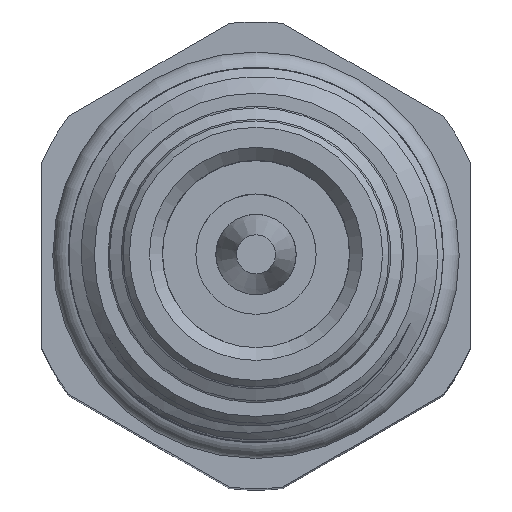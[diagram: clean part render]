
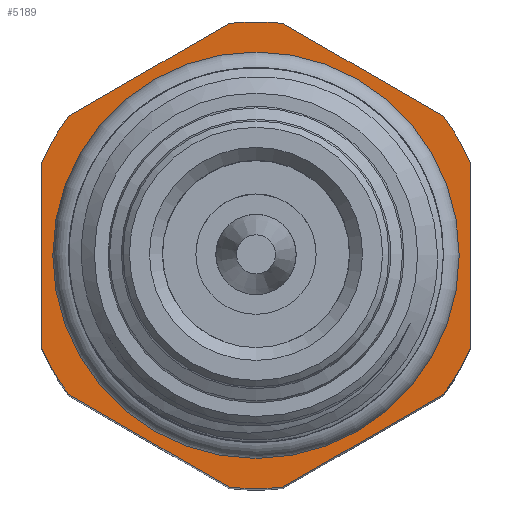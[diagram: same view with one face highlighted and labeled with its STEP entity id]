
A CAD part, top view. The second image highlights one B-rep face of the part: STEP entity #5189.
In plain terms, the highlighted planar face has unit normal (0, 0, 1).
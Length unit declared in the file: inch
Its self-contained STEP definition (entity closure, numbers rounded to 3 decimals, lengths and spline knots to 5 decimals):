
#51=FACE_BOUND('',#1195,.T.);
#242=PLANE('',#5555);
#544=CIRCLE('',#5473,0.545);
#546=CIRCLE('',#5477,0.545);
#551=CIRCLE('',#5487,0.426);
#561=CIRCLE('',#5501,0.545);
#563=CIRCLE('',#5504,0.545);
#565=CIRCLE('',#5508,0.545);
#567=CIRCLE('',#5512,0.545);
#902=FACE_OUTER_BOUND('',#1194,.T.);
#1194=EDGE_LOOP('',(#4039,#4040,#4041,#4042,#4043,#4044,#4045,#4046,#4047,
#4048,#4049,#4050));
#1195=EDGE_LOOP('',(#4051));
#1653=LINE('',#15206,#1893);
#1657=LINE('',#15225,#1897);
#1660=LINE('',#15243,#1900);
#1666=LINE('',#15302,#1906);
#1669=LINE('',#15319,#1909);
#1672=LINE('',#15334,#1912);
#1893=VECTOR('',#6172,0.3937);
#1897=VECTOR('',#6184,0.3937);
#1900=VECTOR('',#6195,0.3937);
#1906=VECTOR('',#6255,0.3937);
#1909=VECTOR('',#6266,0.3937);
#1912=VECTOR('',#6277,0.3937);
#2259=VERTEX_POINT('',#15203);
#2260=VERTEX_POINT('',#15205);
#2263=VERTEX_POINT('',#15215);
#2265=VERTEX_POINT('',#15223);
#2267=VERTEX_POINT('',#15232);
#2269=VERTEX_POINT('',#15240);
#2270=VERTEX_POINT('',#15242);
#2276=VERTEX_POINT('',#15262);
#2285=VERTEX_POINT('',#15290);
#2287=VERTEX_POINT('',#15301);
#2289=VERTEX_POINT('',#15307);
#2291=VERTEX_POINT('',#15318);
#2293=VERTEX_POINT('',#15324);
#2866=EDGE_CURVE('',#2259,#2260,#1653,.T.);
#2871=EDGE_CURVE('',#2263,#2259,#544,.T.);
#2874=EDGE_CURVE('',#2265,#2263,#1657,.T.);
#2878=EDGE_CURVE('',#2267,#2265,#546,.T.);
#2881=EDGE_CURVE('',#2269,#2270,#1660,.T.);
#2889=EDGE_CURVE('',#2276,#2276,#551,.T.);
#2901=EDGE_CURVE('',#2260,#2269,#561,.T.);
#2903=EDGE_CURVE('',#2270,#2285,#563,.T.);
#2907=EDGE_CURVE('',#2285,#2287,#1666,.T.);
#2910=EDGE_CURVE('',#2287,#2289,#565,.T.);
#2914=EDGE_CURVE('',#2289,#2291,#1669,.T.);
#2917=EDGE_CURVE('',#2291,#2293,#567,.T.);
#2921=EDGE_CURVE('',#2293,#2267,#1672,.T.);
#4039=ORIENTED_EDGE('',*,*,#2910,.F.);
#4040=ORIENTED_EDGE('',*,*,#2907,.F.);
#4041=ORIENTED_EDGE('',*,*,#2903,.F.);
#4042=ORIENTED_EDGE('',*,*,#2881,.F.);
#4043=ORIENTED_EDGE('',*,*,#2901,.F.);
#4044=ORIENTED_EDGE('',*,*,#2866,.F.);
#4045=ORIENTED_EDGE('',*,*,#2871,.F.);
#4046=ORIENTED_EDGE('',*,*,#2874,.F.);
#4047=ORIENTED_EDGE('',*,*,#2878,.F.);
#4048=ORIENTED_EDGE('',*,*,#2921,.F.);
#4049=ORIENTED_EDGE('',*,*,#2917,.F.);
#4050=ORIENTED_EDGE('',*,*,#2914,.F.);
#4051=ORIENTED_EDGE('',*,*,#2889,.F.);
#5189=ADVANCED_FACE('',(#902,#51),#242,.T.);
#5473=AXIS2_PLACEMENT_3D('',#15217,#6179,#6180);
#5477=AXIS2_PLACEMENT_3D('',#15234,#6190,#6191);
#5487=AXIS2_PLACEMENT_3D('',#15263,#6214,#6215);
#5501=AXIS2_PLACEMENT_3D('',#15286,#6244,#6245);
#5504=AXIS2_PLACEMENT_3D('',#15291,#6250,#6251);
#5508=AXIS2_PLACEMENT_3D('',#15308,#6261,#6262);
#5512=AXIS2_PLACEMENT_3D('',#15325,#6272,#6273);
#5555=AXIS2_PLACEMENT_3D('',#15444,#6384,#6385);
#6172=DIRECTION('',(0.866,-0.5,0.));
#6179=DIRECTION('center_axis',(0.,0.,
-1.));
#6180=DIRECTION('ref_axis',(1.,0.,0.));
#6184=DIRECTION('',(0.866,0.5,0.));
#6190=DIRECTION('center_axis',(0.,0.,
-1.));
#6191=DIRECTION('ref_axis',(1.,0.,0.));
#6195=DIRECTION('',(0.,-1.,0.));
#6214=DIRECTION('center_axis',(0.,0.,
1.));
#6215=DIRECTION('ref_axis',(-1.,0.,0.));
#6244=DIRECTION('center_axis',(0.,0.,
-1.));
#6245=DIRECTION('ref_axis',(1.,0.,0.));
#6250=DIRECTION('center_axis',(0.,0.,
-1.));
#6251=DIRECTION('ref_axis',(1.,0.,0.));
#6255=DIRECTION('',(-0.866,-0.5,0.));
#6261=DIRECTION('center_axis',(0.,0.,
-1.));
#6262=DIRECTION('ref_axis',(1.,0.,0.));
#6266=DIRECTION('',(-0.866,0.5,0.));
#6272=DIRECTION('center_axis',(0.,0.,
-1.));
#6273=DIRECTION('ref_axis',(1.,0.,0.));
#6277=DIRECTION('',(0.,1.,0.));
#6384=DIRECTION('center_axis',(0.,0.,
1.));
#6385=DIRECTION('ref_axis',(1.,0.,0.));
#15203=CARTESIAN_POINT('',(0.0622,0.54144,2.));
#15205=CARTESIAN_POINT('',(0.4378,0.32459,2.));
#15206=CARTESIAN_POINT('',(0.1561,0.48723,2.));
#15215=CARTESIAN_POINT('',(-0.0622,0.54144,2.));
#15217=CARTESIAN_POINT('Origin',(0.,0.,2.));
#15223=CARTESIAN_POINT('',(-0.4378,0.32459,2.));
#15225=CARTESIAN_POINT('',(-0.3439,0.3788,2.));
#15232=CARTESIAN_POINT('',(-0.5,0.21685,2.));
#15234=CARTESIAN_POINT('Origin',(0.,0.,2.));
#15240=CARTESIAN_POINT('',(0.5,0.21685,2.));
#15242=CARTESIAN_POINT('',(0.5,-0.21685,2.));
#15243=CARTESIAN_POINT('',(0.5,0.10843,2.));
#15262=CARTESIAN_POINT('',(0.426,0.,2.));
#15263=CARTESIAN_POINT('Origin',(0.,0.,
2.));
#15286=CARTESIAN_POINT('Origin',(0.,0.,2.));
#15290=CARTESIAN_POINT('',(0.4378,-0.32459,2.));
#15291=CARTESIAN_POINT('Origin',(0.,0.,2.));
#15301=CARTESIAN_POINT('',(0.0622,-0.54144,2.));
#15302=CARTESIAN_POINT('',(0.3439,-0.3788,2.));
#15307=CARTESIAN_POINT('',(-0.0622,-0.54144,2.));
#15308=CARTESIAN_POINT('Origin',(0.,0.,2.));
#15318=CARTESIAN_POINT('',(-0.4378,-0.32459,2.));
#15319=CARTESIAN_POINT('',(-0.1561,-0.48723,2.));
#15324=CARTESIAN_POINT('',(-0.5,-0.21685,2.));
#15325=CARTESIAN_POINT('Origin',(0.,0.,2.));
#15334=CARTESIAN_POINT('',(-0.5,-0.10843,2.));
#15444=CARTESIAN_POINT('Origin',(0.,0.,
2.));
